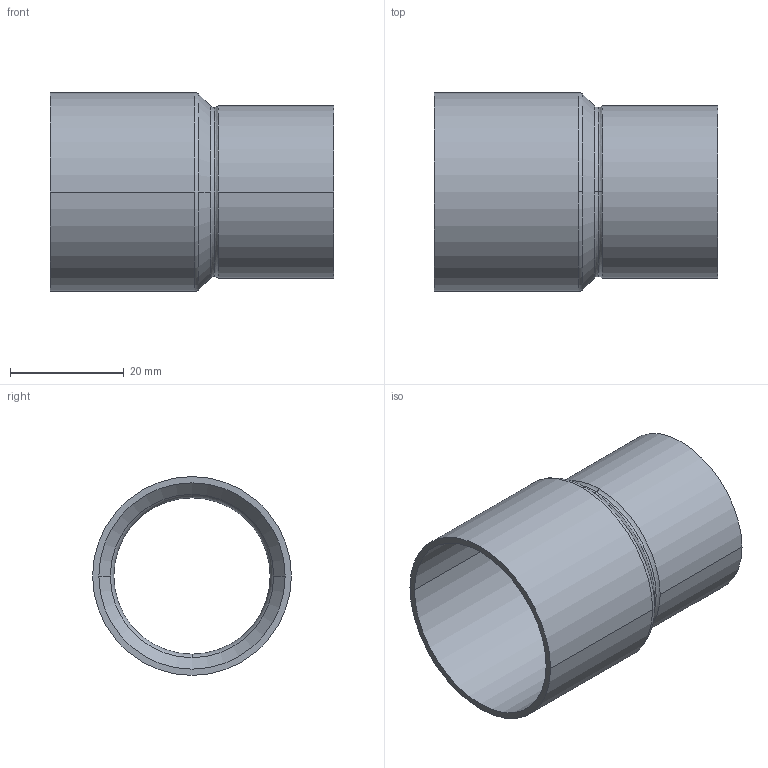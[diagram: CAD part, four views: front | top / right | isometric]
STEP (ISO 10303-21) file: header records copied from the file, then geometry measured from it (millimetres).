
FILE_DESCRIPTION((''),'2;1');
FILE_NAME('G:\Technics\CAD\Bauteile\Serie 15243\152433528.stp','2005-10-21T12:49:42',('boden'),(''),'Autodesk Inventor 8','Autodesk Inventor 8','');
FILE_SCHEMA(('AUTOMOTIVE_DESIGN { 1 0 10303 214 1 1 1 1 }'));
Length unit declared in the file: millimetre
Products named in the file (1): 152433528
Bounding box: 50 x 35 x 35 mm (x, y, z)
Volume: 5595.6 mm3; surface area: 10392.7 mm2
Topology: 1 solids, 1 shells, 24 faces, 60 edges, 38 vertices
Faces by surface type: cylinder 8, torus 6, bspline 4, cone 4, plane 2
Entity records: 931 total; most frequent: CARTESIAN_POINT 299, DIRECTION 150, ORIENTED_EDGE 120, AXIS2_PLACEMENT_3D 69, EDGE_CURVE 60, CIRCLE 48, VERTEX_POINT 38, EDGE_LOOP 26
